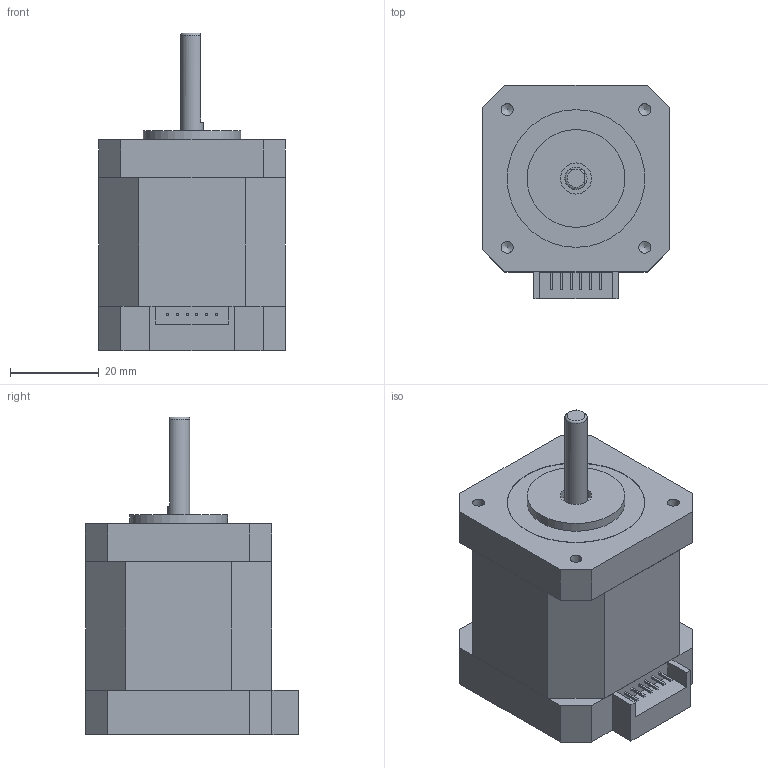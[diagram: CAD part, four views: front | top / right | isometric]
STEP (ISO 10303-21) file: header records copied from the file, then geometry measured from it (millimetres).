
FILE_DESCRIPTION(/* description */ (''),/* implementation_level */ '2;1');
FILE_NAME(/* name */ 'STP-43D3090.stp',/* time_stamp */ '2018-08-13T14:58:16+08:00',/* author */ (''),/* organization */ (''),/* preprocessor_version */ 'ST-DEVELOPER v11',/* originating_system */ 'SIEMENS UGS NX 6.0',/* authorisation */ '');
FILE_SCHEMA (('CONFIG_CONTROL_DESIGN'));
Length unit declared in the file: millimetre
Products named in the file (1): STP-43D3090gaiyuantu
Bounding box: 42 x 48 x 71.5 mm (x, y, z)
Volume: 79545.7 mm3; surface area: 12133.1 mm2
Topology: 1 solids, 1 shells, 158 faces, 401 edges, 268 vertices
Faces by surface type: plane 133, cylinder 15, cone 8, torus 2
Full cylindrical faces by diameter (mm): 2.7 x4, 4.414 x4, 5 x2, 7 x2, 8.5 x1, 22 x1, 31 x1
Entity records: 4546 total; most frequent: CARTESIAN_POINT 795, ORIENTED_EDGE 722, DIRECTION 714, EDGE_CURVE 361, LINE 318, VECTOR 318, VERTEX_POINT 255, EDGE_LOOP 204
